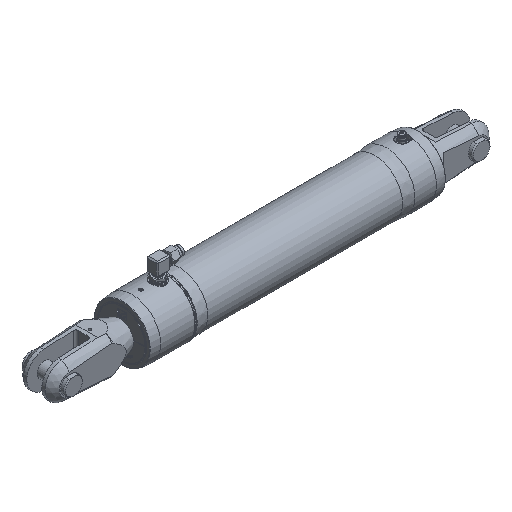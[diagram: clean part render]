
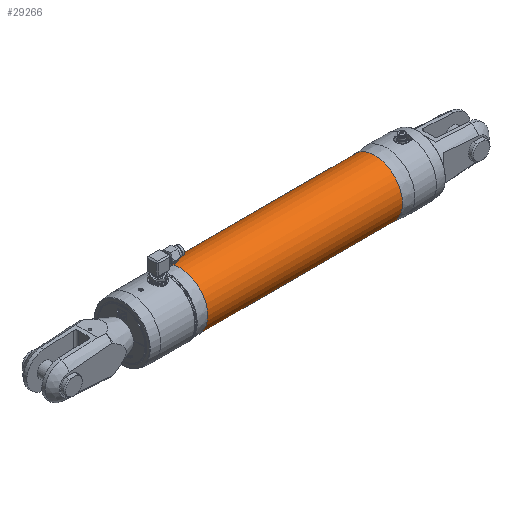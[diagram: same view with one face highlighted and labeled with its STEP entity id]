
A CAD part, isometric view. The second image highlights one B-rep face of the part: STEP entity #29266.
In plain terms, the highlighted cylindrical face has radius 41.3 mm (diameter 82.6 mm), a full revolution.
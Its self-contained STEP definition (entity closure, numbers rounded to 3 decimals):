
#1749=CIRCLE('',#31055,41.3);
#1750=CIRCLE('',#31057,41.3);
#3526=FACE_BOUND('',#5643,.T.);
#3944=FACE_OUTER_BOUND('',#5642,.T.);
#5642=EDGE_LOOP('',(#21517));
#5643=EDGE_LOOP('',(#21518));
#14009=VERTEX_POINT('',#38783);
#14010=VERTEX_POINT('',#38786);
#16936=EDGE_CURVE('',#14009,#14009,#1749,.T.);
#16937=EDGE_CURVE('',#14010,#14010,#1750,.T.);
#21517=ORIENTED_EDGE('',*,*,#16937,.T.);
#21518=ORIENTED_EDGE('',*,*,#16936,.F.);
#29003=CYLINDRICAL_SURFACE('',#31056,41.3);
#29266=ADVANCED_FACE('',(#3944,#3526),#29003,.T.);
#31055=AXIS2_PLACEMENT_3D('',#38784,#32962,#32963);
#31056=AXIS2_PLACEMENT_3D('',#38785,#32964,#32965);
#31057=AXIS2_PLACEMENT_3D('',#38787,#32966,#32967);
#32962=DIRECTION('center_axis',(1.,0.,0.));
#32963=DIRECTION('ref_axis',(0.,0.,-1.));
#32964=DIRECTION('center_axis',(1.,0.,0.));
#32965=DIRECTION('ref_axis',(0.,0.,
1.));
#32966=DIRECTION('center_axis',(1.,0.,0.));
#32967=DIRECTION('ref_axis',(0.,0.,-1.));
#38783=CARTESIAN_POINT('',(-39.348,0.,41.3));
#38784=CARTESIAN_POINT('Origin',(-39.348,0.,
0.));
#38785=CARTESIAN_POINT('Origin',(-185.041,0.,
0.));
#38786=CARTESIAN_POINT('',(-330.734,0.,41.3));
#38787=CARTESIAN_POINT('Origin',(-330.734,0.,
0.));
